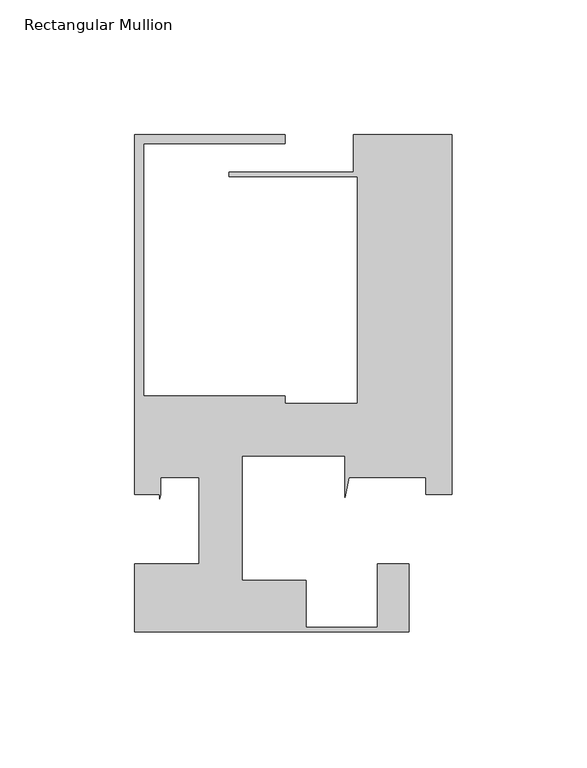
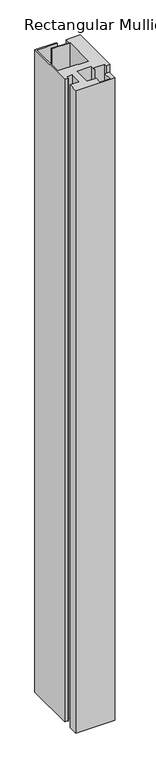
"""IFC4 building model written with IfcOpenShell, lengths in millimetres: member geometry, Rectangular Mullion : Captured Chicken Head Stack."""

from ifc_helpers import new_model, si_unit, frame, origin, place, context, project, spatial, polyline, outline, extrude, source, transform, mapped, element, save


def rectangular_mullion_3a6611b2(model_context):
    return source(origin(), model_context, "Body", "SweptSolid", [
        extrude(outline(polyline([(-61.8998316, 114.30254), (-61.8998316, 111.1275493), (-114.2999537, 111.1275493), (-114.2999537, 17.4529386), (-61.8998316, 17.4529386), (-61.8998316, 14.7454592), (-34.9249745, 14.7454592), (-34.9249745, 98.8645), (-82.5631556, 98.8645), (-82.5631556, 100.4392965), (-36.5130248, 100.4392965), (-36.5130248, 114.30254), (0.0, 114.30254), (0.0, -19.0105392), (-9.5249909, -19.0105392), (-9.5249909, -12.7), (-38.1999639, -12.7), (-39.6874745, -19.9856123), (-39.6874745, -4.7624076), (-77.7875, -4.7624076), (-77.7875, -50.8), (-53.9750123, -50.8), (-53.9750123, -68.2751632), (-27.6414131, -68.2751632), (-27.6414131, -44.7665099), (-15.8431035, -44.7665099), (-15.8431035, -69.8499672), (-117.4750025, -69.8499672), (-117.4750025, -44.7665099), (-93.6624995, -44.7665099), (-93.6624995, -12.699996), (-107.9500091, -12.699996), (-107.9500091, -19.05), (-108.3471992, -20.5435829), (-108.3471992, -18.9450334), (-117.475, -18.9450334), (-117.475, 114.30254), (-61.8998316, 114.30254)])), frame((0.0, 0.0, -1765.3), z_axis=(0.0, 0.0, 1.0), x_axis=(1.0, 0.0, 0.0)), (0.0, 0.0, 1.0), 1765.3),
    ])


if __name__ == "__main__":
    model = new_model("IFC4")
    model_context = context("Model", 3, world=origin())
    ifc_project = project(units=[si_unit("LENGTHUNIT", "METRE", prefix="MILLI")], contexts=[model_context])
    site = spatial("IfcSite", under=ifc_project)
    building = spatial("IfcBuilding", under=site)
    placement = place(None, origin())
    rectangular_mullion_shape = rectangular_mullion_3a6611b2(model_context)
    element("IfcMember", 1, ObjectType="Rectangular Mullion : Captured Chicken Head Stack", at=placement, inside=building, context=model_context, shape_type="MappedRepresentation", body=[
        mapped(rectangular_mullion_shape, transform((0.0, 0.0, 0.0), x_axis=(1.0, 0.0, 0.0), y_axis=(0.0, 1.0, 0.0), z_axis=(0.0, 0.0, 1.0))),
    ])
    save(model, "model.ifc")
